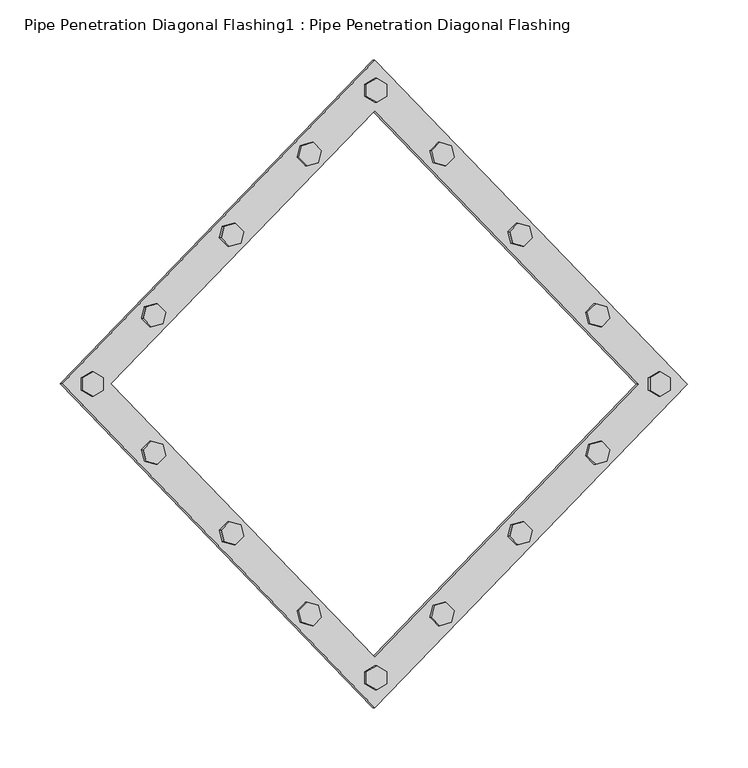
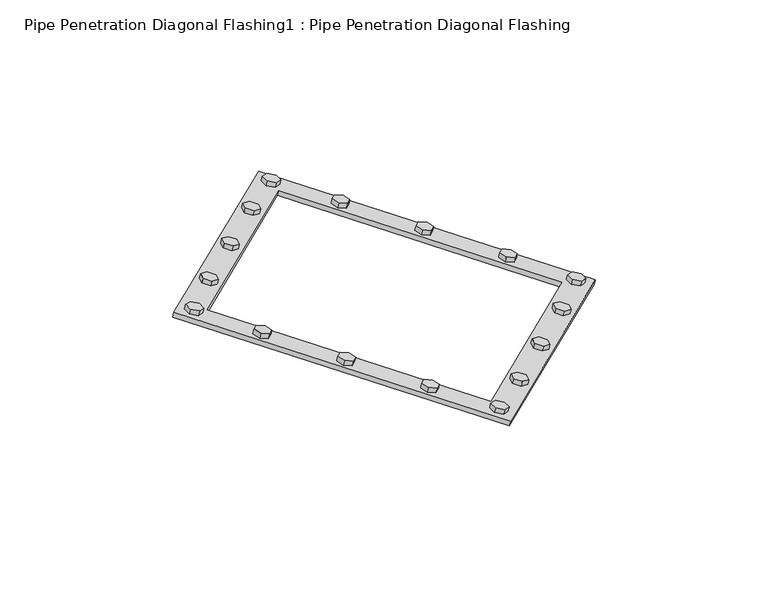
"""IFC4 building model written with IfcOpenShell, lengths in millimetres: proxy geometry, Pipe Penetration Diagonal Flashing1 : Pipe Penetration Diagonal Flashing."""

from ifc_helpers import new_model, si_unit, frame, origin, place, context, project, spatial, polyline, outline, extrude, source, transform, mapped, element, save


def pipe_penetration_diagonal_flashing1_pipe_penetration_9034e6d2(model_context):
    return source(origin(), model_context, "Body", "SweptSolid", [
        extrude(outline(polyline([(0.0, 0.0), (5.0, -8.660254), (0.0, -17.3205081), (-10.0, -17.3205081), (-15.0, -8.6602541), (-10.0, 0.0), (0.0, 0.0)])), frame((-11151.5809042, -18089.9204124, 5991.6812771), z_axis=(0.25881904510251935, 0.0, 0.9659258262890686), x_axis=(0.8365163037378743, -0.4999999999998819, -0.22414386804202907)), (0.0, 0.0, 1.0), 5.7971449),
        extrude(outline(polyline([(-332.820882, 89.2615415), (-327.820882, 80.6012874), (-332.820882, 71.9410334), (-342.820882, 71.9410334), (-347.820882, 80.6012874), (-342.820882, 89.2615414), (-332.820882, 89.2615415)])), frame((-11151.5809042, -18089.9204124, 5991.6812771), z_axis=(0.25881904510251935, 0.0, 0.9659258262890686), x_axis=(0.8365163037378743, -0.4999999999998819, -0.22414386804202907)), (0.0, 0.0, 1.0), 5.7971449),
        extrude(outline(polyline([(-84.1076785, -341.5223634), (-89.1076786, -350.1826175), (-99.1076786, -350.1826175), (-104.1076786, -341.5223634), (-99.1076786, -332.8621094), (-89.1076785, -332.8621094), (-84.1076785, -341.5223634)])), frame((-11151.5809042, -18089.9204124, 5991.6812771), z_axis=(0.25881904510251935, 0.0, 0.9659258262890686), x_axis=(0.8365163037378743, -0.4999999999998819, -0.22414386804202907)), (0.0, 0.0, 1.0), 5.7971449),
        extrude(outline(polyline([(-436.9285605, -252.260822), (-431.9285605, -243.600568), (-421.9285606, -243.600568), (-416.9285606, -252.2608221), (-421.9285605, -260.9210761), (-431.9285605, -260.9210761), (-436.9285605, -252.260822)])), frame((-11151.5809042, -18089.9204124, 5991.6812771), z_axis=(0.25881904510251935, 0.0, 0.9659258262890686), x_axis=(0.8365163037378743, -0.4999999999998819, -0.22414386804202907)), (0.0, 0.0, 1.0), 5.7971449),
        extrude(outline(polyline([(-160.9443468, 41.4159972), (-163.5325372, 31.756739), (-173.1917954, 29.1685485), (-180.2628633, 36.2396163), (-177.6746728, 45.8988746), (-168.0154146, 48.4870651), (-160.9443468, 41.4159972)])), frame((-11151.5809042, -18089.9204124, 5991.6812771), z_axis=(0.25881904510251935, 0.0, 0.9659258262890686), x_axis=(0.8365163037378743, -0.4999999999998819, -0.22414386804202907)), (0.0, 0.0, 1.0), 5.7971449),
        extrude(outline(polyline([(-252.3076303, 65.8967153), (-254.8958208, 56.237457), (-264.5550791, 53.6492666), (-271.6261469, 60.7203344), (-269.0379565, 70.3795927), (-259.3786981, 72.9677831), (-252.3076303, 65.8967153)])), frame((-11151.5809042, -18089.9204124, 5991.6812771), z_axis=(0.25881904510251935, 0.0, 0.9659258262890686), x_axis=(0.8365163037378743, -0.4999999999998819, -0.22414386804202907)), (0.0, 0.0, 1.0), 5.7971449),
        extrude(outline(polyline([(-86.3113892, 21.4181566), (-76.652131, 24.006347), (-69.5810632, 16.9352792), (-72.1692536, 7.2760209), (-81.8285118, 4.6878305), (-88.8995797, 11.7588983), (-86.3113892, 21.4181566)])), frame((-11151.5809042, -18089.9204124, 5991.6812771), z_axis=(0.25881904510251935, 0.0, 0.9659258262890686), x_axis=(0.8365163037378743, -0.4999999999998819, -0.22414386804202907)), (0.0, 0.0, 1.0), 5.7971449),
        extrude(outline(polyline([(-39.6048677, -168.7501455), (-37.0166773, -178.4094038), (-44.087745, -185.4804716), (-53.7470033, -182.8922811), (-56.3351937, -173.2330229), (-49.264126, -166.161955), (-39.6048677, -168.7501455)])), frame((-11151.5809042, -18089.9204124, 5991.6812771), z_axis=(0.25881904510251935, 0.0, 0.9659258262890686), x_axis=(0.8365163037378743, -0.4999999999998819, -0.22414386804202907)), (0.0, 0.0, 1.0), 5.7971449),
        extrude(outline(polyline([(-64.0855857, -260.1134291), (-61.4973952, -269.7726874), (-68.5684631, -276.8437552), (-78.2277214, -274.2555647), (-80.8159118, -264.5963064), (-73.744844, -257.5252387), (-64.0855857, -260.1134291)])), frame((-11151.5809042, -18089.9204124, 5991.6812771), z_axis=(0.25881904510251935, 0.0, 0.9659258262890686), x_axis=(0.8365163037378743, -0.4999999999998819, -0.22414386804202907)), (0.0, 0.0, 1.0), 5.7971449),
        extrude(outline(polyline([(-19.607027, -94.117188), (-29.2662852, -91.5289975), (-31.8544757, -81.8697392), (-24.7834079, -74.7986714), (-15.1241496, -77.3868619), (-12.5359592, -87.0461202), (-19.607027, -94.117188)])), frame((-11151.5809042, -18089.9204124, 5991.6812771), z_axis=(0.25881904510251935, 0.0, 0.9659258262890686), x_axis=(0.8365163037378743, -0.4999999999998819, -0.22414386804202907)), (0.0, 0.0, 1.0), 5.7971449),
        extrude(outline(polyline([(-392.3236929, -92.1709306), (-394.9118834, -82.5116723), (-387.8408156, -75.4406045), (-378.1815572, -78.0287949), (-375.5933668, -87.6880532), (-382.6644347, -94.759121), (-392.3236929, -92.1709306)])), frame((-11151.5809042, -18089.9204124, 5991.6812771), z_axis=(0.25881904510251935, 0.0, 0.9659258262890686), x_axis=(0.8365163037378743, -0.4999999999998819, -0.22414386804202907)), (0.0, 0.0, 1.0), 5.7971449),
        extrude(outline(polyline([(-367.8429748, -0.807647), (-370.4311653, 8.8516113), (-363.3600975, 15.9226791), (-353.7008393, 13.3344887), (-351.1126488, 3.6752304), (-358.1837166, -3.3958374), (-367.8429748, -0.807647)])), frame((-11151.5809042, -18089.9204124, 5991.6812771), z_axis=(0.25881904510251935, 0.0, 0.9659258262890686), x_axis=(0.8365163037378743, -0.4999999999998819, -0.22414386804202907)), (0.0, 0.0, 1.0), 5.7971449),
        extrude(outline(polyline([(-412.3215336, -166.803888), (-402.6622754, -169.3920785), (-400.0740849, -179.0513368), (-407.1451526, -186.1224046), (-416.804411, -183.5342141), (-419.3926014, -173.8749559), (-412.3215336, -166.803888)])), frame((-11151.5809042, -18089.9204124, 5991.6812771), z_axis=(0.25881904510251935, 0.0, 0.9659258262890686), x_axis=(0.8365163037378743, -0.4999999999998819, -0.22414386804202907)), (0.0, 0.0, 1.0), 5.7971449),
        extrude(outline(polyline([(-270.9842138, -302.3370733), (-268.3960234, -292.677815), (-258.7367651, -290.0896246), (-251.6656972, -297.1606924), (-254.2538878, -306.8199507), (-263.913146, -309.4081411), (-270.9842138, -302.3370733)])), frame((-11151.5809042, -18089.9204124, 5991.6812771), z_axis=(0.25881904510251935, 0.0, 0.9659258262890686), x_axis=(0.8365163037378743, -0.4999999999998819, -0.22414386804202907)), (0.0, 0.0, 1.0), 5.7971449),
        extrude(outline(polyline([(-179.6209302, -326.8177914), (-177.0327398, -317.1585331), (-167.3734816, -314.5703426), (-160.3024137, -321.6414105), (-162.8906042, -331.3006687), (-172.5498624, -333.8888592), (-179.6209302, -326.8177914)])), frame((-11151.5809042, -18089.9204124, 5991.6812771), z_axis=(0.25881904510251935, 0.0, 0.9659258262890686), x_axis=(0.8365163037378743, -0.4999999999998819, -0.22414386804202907)), (0.0, 0.0, 1.0), 5.7971449),
        extrude(outline(polyline([(-345.6171713, -282.3392325), (-355.2764296, -284.9274231), (-362.3474975, -277.8563552), (-359.7593069, -268.1970969), (-350.1000487, -265.6089064), (-343.0289809, -272.6799743), (-345.6171713, -282.3392325)])), frame((-11151.5809042, -18089.9204124, 5991.6812771), z_axis=(0.25881904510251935, 0.0, 0.9659258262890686), x_axis=(0.8365163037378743, -0.4999999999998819, -0.22414386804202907)), (0.0, 0.0, 1.0), 5.7971449),
        extrude(outline(polyline([(-40.0, -30.0), (-40.0, 349.9137803), (339.9137803, 349.9137803), (339.9137803, -30.0), (-40.0, -30.0)]), holes=[polyline([(309.9137803, 0.0), (309.9137803, 319.9137803), (-10.0000001, 319.9137803), (-10.0, 0.0), (309.9137803, 0.0)])]), frame((-11608.4216071, -18101.9914802, 6108.0897285), z_axis=(0.2588190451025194, 0.0, 0.9659258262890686), x_axis=(0.6830127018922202, -0.7071067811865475, -0.18301270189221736)), (0.0, 0.0, 1.0), 5.7971449),
    ])


if __name__ == "__main__":
    model = new_model("IFC4")
    model_context = context("Model", 3, world=origin())
    ifc_project = project(units=[si_unit("LENGTHUNIT", "METRE", prefix="MILLI")], contexts=[model_context])
    site = spatial("IfcSite", under=ifc_project)
    building = spatial("IfcBuilding", under=site)
    placement = place(None, origin())
    pipe_penetration_diagonal_flashing1_pipe_penetration_shape = pipe_penetration_diagonal_flashing1_pipe_penetration_9034e6d2(model_context)
    element("IfcBuildingElementProxy", 1, Name="Pipe Penetration Diagonal Flashing1 : Pipe Penetration Diagonal Flashing", ObjectType="Pipe Penetration Diagonal Flashing1 : Pipe Penetration Diagonal Flashing", at=placement, inside=building, context=model_context, shape_type="MappedRepresentation", body=[
        mapped(pipe_penetration_diagonal_flashing1_pipe_penetration_shape, transform((0.0, 0.0, 0.0), x_axis=(1.0, 0.0, 0.0), y_axis=(0.0, 1.0, 0.0), z_axis=(0.0, 0.0, 1.0))),
    ])
    save(model, "model.ifc")
